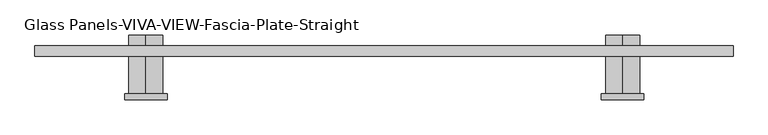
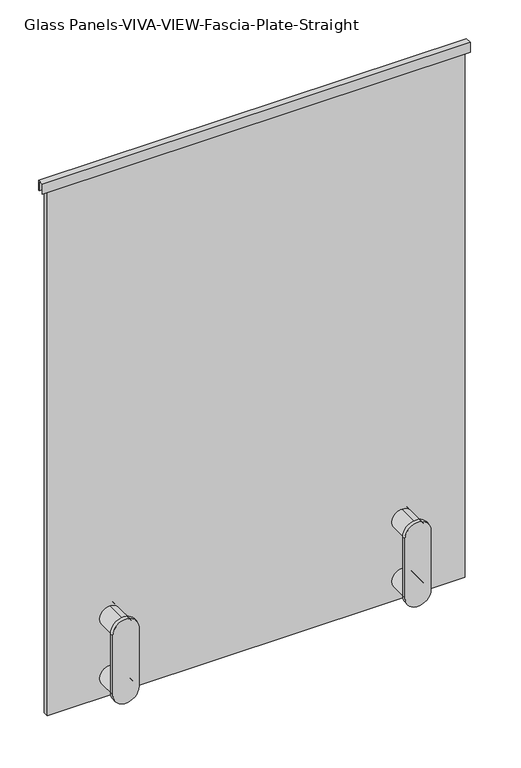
"""IFC4 building model written with IfcOpenShell, lengths in millimetres: railing geometry, Glass Panels-VIVA-VIEW-Fascia-Plate-Straight."""

from ifc_helpers import new_model, si_unit, point, frame, frame_2d, origin, place, context, project, spatial, polyline, circle_curve, trimmed, segment, composite_curve, outline, extrude, source, transform, mapped, element, save
from ifc_brep_helpers import plane_surface, cylinder_surface, advanced_brep


def glass_panels_viva_view_fascia_plate_straight_fb124eda(model_context):
    return source(origin(), model_context, "Body", "SolidModel", [
        extrude(outline(polyline([(-10291.1594585, 4140.2), (-10275.2844585, 4140.2), (-10275.2844585, 4114.8), (-10276.8719585, 4114.8), (-10276.8719585, 4138.6125), (-10289.5719585, 4138.6125), (-10289.5719585, 4114.8), (-10291.1594585, 4114.8), (-10291.1594585, 4140.2)])), frame((19925.5266433, 0.0, 0.0), z_axis=(1.0, 0.0, 0.0), x_axis=(0.0, 1.0, 0.0)), (0.0, 0.0, 1.0), 1041.4),
        advanced_brep(
        [(20091.0096899, -10259.4097524, 2794.0), (20091.0096899, -10259.4097524, 2819.4), (20091.0096899, -10259.4097524, 2844.8), (20091.0096899, -10276.8722524, 2794.0), (20091.0096899, -10276.8722524, 2844.8), (20091.0096899, -10276.8722524, 2813.685), (20091.0096899, -10276.8722524, 2825.115), (20091.0096899, -10289.5722524, 2813.685), (20091.0096899, -10289.5722524, 2825.115), (20091.0096899, -10289.5722524, 2794.0), (20091.0096899, -10289.5722524, 2844.8), (20091.0096899, -10346.7221054, 2794.0), (20091.0096899, -10346.7221054, 2844.8), (20091.0096899, -10346.7221054, 2819.4)],
        [
            (0, 1),
            (1, 2),
            (2, 0, circle_curve(frame((20091.0096899, -10259.4097524, 2819.4), z_axis=(0.0, 1.0, 0.0), x_axis=(0.0, 0.0, 1.0)), 25.4)),
            (0, 2, circle_curve(frame((20091.0096899, -10259.4097524, 2819.4), z_axis=(0.0, 1.0, 0.0), x_axis=(0.0, 0.0, 1.0)), 25.4)),
            (3, 0),
            (2, 4),
            (4, 3, circle_curve(frame((20091.0096899, -10276.8722524, 2819.4), z_axis=(0.0, 1.0, 0.0), x_axis=(0.0, 0.0, 1.0)), 25.4)),
            (3, 4, circle_curve(frame((20091.0096899, -10276.8722524, 2819.4), z_axis=(0.0, 1.0, 0.0), x_axis=(0.0, 0.0, 1.0)), 25.4)),
            (5, 3),
            (4, 6),
            (6, 5, circle_curve(frame((20091.0096899, -10276.8722524, 2819.4), z_axis=(0.0, 1.0, 0.0), x_axis=(0.0, 0.0, 1.0)), 5.715)),
            (5, 6, circle_curve(frame((20091.0096899, -10276.8722524, 2819.4), z_axis=(0.0, 1.0, 0.0), x_axis=(0.0, 0.0, 1.0)), 5.715)),
            (7, 5),
            (6, 8),
            (8, 7, circle_curve(frame((20091.0096899, -10289.5722524, 2819.4), z_axis=(0.0, 1.0, 0.0), x_axis=(0.0, 0.0, 1.0)), 5.715)),
            (7, 8, circle_curve(frame((20091.0096899, -10289.5722524, 2819.4), z_axis=(0.0, 1.0, 0.0), x_axis=(0.0, 0.0, 1.0)), 5.715)),
            (9, 7),
            (8, 10),
            (10, 9, circle_curve(frame((20091.0096899, -10289.5722524, 2819.4), z_axis=(0.0, 1.0, 0.0), x_axis=(0.0, 0.0, 1.0)), 25.4)),
            (9, 10, circle_curve(frame((20091.0096899, -10289.5722524, 2819.4), z_axis=(0.0, 1.0, 0.0), x_axis=(0.0, 0.0, 1.0)), 25.4)),
            (11, 9),
            (10, 12),
            (12, 11, circle_curve(frame((20091.0096899, -10346.7221054, 2819.4), z_axis=(0.0, 1.0, 0.0), x_axis=(0.0, 0.0, 1.0)), 25.4)),
            (11, 12, circle_curve(frame((20091.0096899, -10346.7221054, 2819.4), z_axis=(0.0, 1.0, 0.0), x_axis=(0.0, 0.0, 1.0)), 25.4)),
            (13, 11),
            (12, 13),
        ],
        [
            plane_surface(frame((20091.0096899, -10259.4097524, 2819.4), z_axis=(0.0, 1.0, 0.0), x_axis=(0.0, 0.0, 1.0))),
            cylinder_surface(frame((20091.0096899, -10191.1471054, 2819.4), z_axis=(0.0, -1.0, 0.0), x_axis=(0.0, 0.0, 1.0)), 25.4),
            plane_surface(frame((20091.0096899, -10276.8722524, 2819.4), z_axis=(0.0, -1.0, 0.0), x_axis=(0.0, 0.0, 1.0))),
            cylinder_surface(frame((20091.0096899, -10191.1471054, 2819.4), z_axis=(0.0, -1.0, 0.0), x_axis=(0.0, 0.0, 1.0)), 5.715),
            plane_surface(frame((20091.0096899, -10289.5722524, 2819.4), z_axis=(0.0, 1.0, 0.0), x_axis=(0.0, 0.0, 1.0))),
            plane_surface(frame((20091.0096899, -10346.7221054, 2819.4), z_axis=(0.0, -1.0, 0.0), x_axis=(0.0, 0.0, 1.0))),
        ],
        [
            (0, [[1, 2, 3]]),
            (0, [[-2, -1, 4]]),
            (1, [[5, -3, 6, 7]]),
            (1, [[-6, -4, -5, 8]]),
            (2, [[9, -7, 10, 11]]),
            (2, [[-10, -8, -9, 12]]),
            (3, [[13, -11, 14, 15]]),
            (3, [[-14, -12, -13, 16]]),
            (4, [[17, -15, 18, 19]]),
            (4, [[-18, -16, -17, 20]]),
            (1, [[21, -19, 22, 23]]),
            (1, [[-22, -20, -21, 24]]),
            (5, [[25, -23, 26]]),
            (5, [[-26, -24, -25]]),
        ],
    ),
        advanced_brep(
        [(20091.0096899, -10276.8722524, 2966.085), (20091.0096899, -10276.8722524, 2946.4), (20091.0096899, -10276.8722524, 2997.2), (20091.0096899, -10276.8722524, 2977.515), (20091.0096899, -10289.5722524, 2966.085), (20091.0096899, -10289.5722524, 2977.515), (20091.0096899, -10289.5722524, 2946.4), (20091.0096899, -10289.5722524, 2997.2), (20091.0096899, -10346.7221054, 2946.4), (20091.0096899, -10346.7221054, 2997.2), (20091.0096899, -10346.7221054, 2971.8), (20091.0096899, -10259.4097524, 2946.4), (20091.0096899, -10259.4097524, 2971.8), (20091.0096899, -10259.4097524, 2997.2)],
        [
            (0, 1),
            (1, 2, circle_curve(frame((20091.0096899, -10276.8722524, 2971.8), z_axis=(0.0, -1.0, 0.0), x_axis=(0.0, 0.0, 1.0)), 25.4)),
            (2, 3),
            (3, 0, circle_curve(frame((20091.0096899, -10276.8722524, 2971.8), z_axis=(0.0, 1.0, 0.0), x_axis=(0.0, 0.0, 1.0)), 5.715)),
            (2, 1, circle_curve(frame((20091.0096899, -10276.8722524, 2971.8), z_axis=(0.0, -1.0, 0.0), x_axis=(0.0, 0.0, 1.0)), 25.4)),
            (0, 3, circle_curve(frame((20091.0096899, -10276.8722524, 2971.8), z_axis=(0.0, 1.0, 0.0), x_axis=(0.0, 0.0, 1.0)), 5.715)),
            (4, 0),
            (3, 5),
            (5, 4, circle_curve(frame((20091.0096899, -10289.5722524, 2971.8), z_axis=(0.0, 1.0, 0.0), x_axis=(0.0, 0.0, 1.0)), 5.715)),
            (4, 5, circle_curve(frame((20091.0096899, -10289.5722524, 2971.8), z_axis=(0.0, 1.0, 0.0), x_axis=(0.0, 0.0, 1.0)), 5.715)),
            (6, 4),
            (5, 7),
            (7, 6, circle_curve(frame((20091.0096899, -10289.5722524, 2971.8), z_axis=(0.0, 1.0, 0.0), x_axis=(0.0, 0.0, 1.0)), 25.4)),
            (6, 7, circle_curve(frame((20091.0096899, -10289.5722524, 2971.8), z_axis=(0.0, 1.0, 0.0), x_axis=(0.0, 0.0, 1.0)), 25.4)),
            (8, 6),
            (7, 9),
            (9, 8, circle_curve(frame((20091.0096899, -10346.7221054, 2971.8), z_axis=(0.0, 1.0, 0.0), x_axis=(0.0, 0.0, 1.0)), 25.4)),
            (8, 9, circle_curve(frame((20091.0096899, -10346.7221054, 2971.8), z_axis=(0.0, 1.0, 0.0), x_axis=(0.0, 0.0, 1.0)), 25.4)),
            (10, 8),
            (9, 10),
            (11, 12),
            (12, 13),
            (13, 11, circle_curve(frame((20091.0096899, -10259.4097524, 2971.8), z_axis=(0.0, 1.0, 0.0), x_axis=(0.0, 0.0, 1.0)), 25.4)),
            (11, 13, circle_curve(frame((20091.0096899, -10259.4097524, 2971.8), z_axis=(0.0, 1.0, 0.0), x_axis=(0.0, 0.0, 1.0)), 25.4)),
            (1, 11),
            (13, 2),
        ],
        [
            plane_surface(frame((20091.0096899, -10276.8722524, 2971.8), z_axis=(0.0, -1.0, 0.0), x_axis=(0.0, 0.0, 1.0))),
            cylinder_surface(frame((20091.0096899, -10191.1471054, 2971.8), z_axis=(0.0, -1.0, 0.0), x_axis=(0.0, 0.0, 1.0)), 5.715),
            plane_surface(frame((20091.0096899, -10289.5722524, 2971.8), z_axis=(0.0, 1.0, 0.0), x_axis=(0.0, 0.0, 1.0))),
            cylinder_surface(frame((20091.0096899, -10191.1471054, 2971.8), z_axis=(0.0, -1.0, 0.0), x_axis=(0.0, 0.0, 1.0)), 25.4),
            plane_surface(frame((20091.0096899, -10346.7221054, 2971.8), z_axis=(0.0, -1.0, 0.0), x_axis=(0.0, 0.0, 1.0))),
            plane_surface(frame((20091.0096899, -10259.4097524, 2971.8), z_axis=(0.0, 1.0, 0.0), x_axis=(0.0, 0.0, 1.0))),
        ],
        [
            (0, [[1, 2, 3, 4]]),
            (0, [[-3, 5, -1, 6]]),
            (1, [[7, -4, 8, 9]]),
            (1, [[-8, -6, -7, 10]]),
            (2, [[11, -9, 12, 13]]),
            (2, [[-12, -10, -11, 14]]),
            (3, [[15, -13, 16, 17]]),
            (3, [[-16, -14, -15, 18]]),
            (4, [[19, -17, 20]]),
            (4, [[-20, -18, -19]]),
            (5, [[21, 22, 23]]),
            (5, [[-22, -21, 24]]),
            (3, [[25, -23, 26, -2]]),
            (3, [[-26, -24, -25, -5]]),
        ],
    ),
        extrude(outline(composite_curve([segment(polyline([(2971.8, 20059.2596899), (2819.4, 20059.2596899)]), True, "CONTINUOUS"), segment(trimmed(circle_curve(frame_2d((2819.4, 20091.0096899)), 31.75), [point((2819.4, 20059.2596899))], [point((2819.4, 20122.7596899))], False, "CARTESIAN"), True, "CONTINUOUS"), segment(polyline([(2819.4, 20122.7596899), (2971.8, 20122.7596899)]), True, "CONTINUOUS"), segment(trimmed(circle_curve(frame_2d((2971.8, 20091.0096899)), 31.75), [point((2971.8, 20122.7596899))], [point((2971.8, 20059.2596899))], False, "CARTESIAN"), True, "CONTINUOUS")], self_intersect=False)), frame((0.0, -10356.2471054, 0.0), z_axis=(0.0, 1.0, 0.0), x_axis=(0.0, 0.0, 1.0)), (0.0, 0.0, 1.0), 9.525),
        advanced_brep(
        [(20802.2096899, -10259.4097524, 2794.0), (20802.2096899, -10259.4097524, 2819.4), (20802.2096899, -10259.4097524, 2844.8), (20802.2096899, -10276.8722524, 2794.0), (20802.2096899, -10276.8722524, 2844.8), (20802.2096899, -10276.8722524, 2813.685), (20802.2096899, -10276.8722524, 2825.115), (20802.2096899, -10289.5722524, 2813.685), (20802.2096899, -10289.5722524, 2825.115), (20802.2096899, -10289.5722524, 2794.0), (20802.2096899, -10289.5722524, 2844.8), (20802.2096899, -10346.7221054, 2794.0), (20802.2096899, -10346.7221054, 2844.8), (20802.2096899, -10346.7221054, 2819.4)],
        [
            (0, 1),
            (1, 2),
            (2, 0, circle_curve(frame((20802.2096899, -10259.4097524, 2819.4), z_axis=(0.0, 1.0, 0.0), x_axis=(0.0, 0.0, 1.0)), 25.4)),
            (0, 2, circle_curve(frame((20802.2096899, -10259.4097524, 2819.4), z_axis=(0.0, 1.0, 0.0), x_axis=(0.0, 0.0, 1.0)), 25.4)),
            (3, 0),
            (2, 4),
            (4, 3, circle_curve(frame((20802.2096899, -10276.8722524, 2819.4), z_axis=(0.0, 1.0, 0.0), x_axis=(0.0, 0.0, 1.0)), 25.4)),
            (3, 4, circle_curve(frame((20802.2096899, -10276.8722524, 2819.4), z_axis=(0.0, 1.0, 0.0), x_axis=(0.0, 0.0, 1.0)), 25.4)),
            (5, 3),
            (4, 6),
            (6, 5, circle_curve(frame((20802.2096899, -10276.8722524, 2819.4), z_axis=(0.0, 1.0, 0.0), x_axis=(0.0, 0.0, 1.0)), 5.715)),
            (5, 6, circle_curve(frame((20802.2096899, -10276.8722524, 2819.4), z_axis=(0.0, 1.0, 0.0), x_axis=(0.0, 0.0, 1.0)), 5.715)),
            (7, 5),
            (6, 8),
            (8, 7, circle_curve(frame((20802.2096899, -10289.5722524, 2819.4), z_axis=(0.0, 1.0, 0.0), x_axis=(0.0, 0.0, 1.0)), 5.715)),
            (7, 8, circle_curve(frame((20802.2096899, -10289.5722524, 2819.4), z_axis=(0.0, 1.0, 0.0), x_axis=(0.0, 0.0, 1.0)), 5.715)),
            (9, 7),
            (8, 10),
            (10, 9, circle_curve(frame((20802.2096899, -10289.5722524, 2819.4), z_axis=(0.0, 1.0, 0.0), x_axis=(0.0, 0.0, 1.0)), 25.4)),
            (9, 10, circle_curve(frame((20802.2096899, -10289.5722524, 2819.4), z_axis=(0.0, 1.0, 0.0), x_axis=(0.0, 0.0, 1.0)), 25.4)),
            (11, 9),
            (10, 12),
            (12, 11, circle_curve(frame((20802.2096899, -10346.7221054, 2819.4), z_axis=(0.0, 1.0, 0.0), x_axis=(0.0, 0.0, 1.0)), 25.4)),
            (11, 12, circle_curve(frame((20802.2096899, -10346.7221054, 2819.4), z_axis=(0.0, 1.0, 0.0), x_axis=(0.0, 0.0, 1.0)), 25.4)),
            (13, 11),
            (12, 13),
        ],
        [
            plane_surface(frame((20802.2096899, -10259.4097524, 2819.4), z_axis=(0.0, 1.0, 0.0), x_axis=(0.0, 0.0, 1.0))),
            cylinder_surface(frame((20802.2096899, -10191.1471054, 2819.4), z_axis=(0.0, -1.0, 0.0), x_axis=(0.0, 0.0, 1.0)), 25.4),
            plane_surface(frame((20802.2096899, -10276.8722524, 2819.4), z_axis=(0.0, -1.0, 0.0), x_axis=(0.0, 0.0, 1.0))),
            cylinder_surface(frame((20802.2096899, -10191.1471054, 2819.4), z_axis=(0.0, -1.0, 0.0), x_axis=(0.0, 0.0, 1.0)), 5.715),
            plane_surface(frame((20802.2096899, -10289.5722524, 2819.4), z_axis=(0.0, 1.0, 0.0), x_axis=(0.0, 0.0, 1.0))),
            plane_surface(frame((20802.2096899, -10346.7221054, 2819.4), z_axis=(0.0, -1.0, 0.0), x_axis=(0.0, 0.0, 1.0))),
        ],
        [
            (0, [[1, 2, 3]]),
            (0, [[-2, -1, 4]]),
            (1, [[5, -3, 6, 7]]),
            (1, [[-6, -4, -5, 8]]),
            (2, [[9, -7, 10, 11]]),
            (2, [[-10, -8, -9, 12]]),
            (3, [[13, -11, 14, 15]]),
            (3, [[-14, -12, -13, 16]]),
            (4, [[17, -15, 18, 19]]),
            (4, [[-18, -16, -17, 20]]),
            (1, [[21, -19, 22, 23]]),
            (1, [[-22, -20, -21, 24]]),
            (5, [[25, -23, 26]]),
            (5, [[-26, -24, -25]]),
        ],
    ),
        advanced_brep(
        [(20802.2096899, -10276.8722524, 2966.085), (20802.2096899, -10276.8722524, 2946.4), (20802.2096899, -10276.8722524, 2997.2), (20802.2096899, -10276.8722524, 2977.515), (20802.2096899, -10289.5722524, 2966.085), (20802.2096899, -10289.5722524, 2977.515), (20802.2096899, -10289.5722524, 2946.4), (20802.2096899, -10289.5722524, 2997.2), (20802.2096899, -10346.7221054, 2946.4), (20802.2096899, -10346.7221054, 2997.2), (20802.2096899, -10346.7221054, 2971.8), (20802.2096899, -10259.4097524, 2946.4), (20802.2096899, -10259.4097524, 2971.8), (20802.2096899, -10259.4097524, 2997.2)],
        [
            (0, 1),
            (1, 2, circle_curve(frame((20802.2096899, -10276.8722524, 2971.8), z_axis=(0.0, -1.0, 0.0), x_axis=(0.0, 0.0, 1.0)), 25.4)),
            (2, 3),
            (3, 0, circle_curve(frame((20802.2096899, -10276.8722524, 2971.8), z_axis=(0.0, 1.0, 0.0), x_axis=(0.0, 0.0, 1.0)), 5.715)),
            (2, 1, circle_curve(frame((20802.2096899, -10276.8722524, 2971.8), z_axis=(0.0, -1.0, 0.0), x_axis=(0.0, 0.0, 1.0)), 25.4)),
            (0, 3, circle_curve(frame((20802.2096899, -10276.8722524, 2971.8), z_axis=(0.0, 1.0, 0.0), x_axis=(0.0, 0.0, 1.0)), 5.715)),
            (4, 0),
            (3, 5),
            (5, 4, circle_curve(frame((20802.2096899, -10289.5722524, 2971.8), z_axis=(0.0, 1.0, 0.0), x_axis=(0.0, 0.0, 1.0)), 5.715)),
            (4, 5, circle_curve(frame((20802.2096899, -10289.5722524, 2971.8), z_axis=(0.0, 1.0, 0.0), x_axis=(0.0, 0.0, 1.0)), 5.715)),
            (6, 4),
            (5, 7),
            (7, 6, circle_curve(frame((20802.2096899, -10289.5722524, 2971.8), z_axis=(0.0, 1.0, 0.0), x_axis=(0.0, 0.0, 1.0)), 25.4)),
            (6, 7, circle_curve(frame((20802.2096899, -10289.5722524, 2971.8), z_axis=(0.0, 1.0, 0.0), x_axis=(0.0, 0.0, 1.0)), 25.4)),
            (8, 6),
            (7, 9),
            (9, 8, circle_curve(frame((20802.2096899, -10346.7221054, 2971.8), z_axis=(0.0, 1.0, 0.0), x_axis=(0.0, 0.0, 1.0)), 25.4)),
            (8, 9, circle_curve(frame((20802.2096899, -10346.7221054, 2971.8), z_axis=(0.0, 1.0, 0.0), x_axis=(0.0, 0.0, 1.0)), 25.4)),
            (10, 8),
            (9, 10),
            (11, 12),
            (12, 13),
            (13, 11, circle_curve(frame((20802.2096899, -10259.4097524, 2971.8), z_axis=(0.0, 1.0, 0.0), x_axis=(0.0, 0.0, 1.0)), 25.4)),
            (11, 13, circle_curve(frame((20802.2096899, -10259.4097524, 2971.8), z_axis=(0.0, 1.0, 0.0), x_axis=(0.0, 0.0, 1.0)), 25.4)),
            (1, 11),
            (13, 2),
        ],
        [
            plane_surface(frame((20802.2096899, -10276.8722524, 2971.8), z_axis=(0.0, -1.0, 0.0), x_axis=(0.0, 0.0, 1.0))),
            cylinder_surface(frame((20802.2096899, -10191.1471054, 2971.8), z_axis=(0.0, -1.0, 0.0), x_axis=(0.0, 0.0, 1.0)), 5.715),
            plane_surface(frame((20802.2096899, -10289.5722524, 2971.8), z_axis=(0.0, 1.0, 0.0), x_axis=(0.0, 0.0, 1.0))),
            cylinder_surface(frame((20802.2096899, -10191.1471054, 2971.8), z_axis=(0.0, -1.0, 0.0), x_axis=(0.0, 0.0, 1.0)), 25.4),
            plane_surface(frame((20802.2096899, -10346.7221054, 2971.8), z_axis=(0.0, -1.0, 0.0), x_axis=(0.0, 0.0, 1.0))),
            plane_surface(frame((20802.2096899, -10259.4097524, 2971.8), z_axis=(0.0, 1.0, 0.0), x_axis=(0.0, 0.0, 1.0))),
        ],
        [
            (0, [[1, 2, 3, 4]]),
            (0, [[-3, 5, -1, 6]]),
            (1, [[7, -4, 8, 9]]),
            (1, [[-8, -6, -7, 10]]),
            (2, [[11, -9, 12, 13]]),
            (2, [[-12, -10, -11, 14]]),
            (3, [[15, -13, 16, 17]]),
            (3, [[-16, -14, -15, 18]]),
            (4, [[19, -17, 20]]),
            (4, [[-20, -18, -19]]),
            (5, [[21, 22, 23]]),
            (5, [[-22, -21, 24]]),
            (3, [[25, -23, 26, -2]]),
            (3, [[-26, -24, -25, -5]]),
        ],
    ),
        extrude(outline(composite_curve([segment(polyline([(2971.8, 20770.4596899), (2819.4, 20770.4596899)]), True, "CONTINUOUS"), segment(trimmed(circle_curve(frame_2d((2819.4, 20802.2096899)), 31.75), [point((2819.4, 20770.4596899))], [point((2819.4, 20833.9596899))], False, "CARTESIAN"), True, "CONTINUOUS"), segment(polyline([(2819.4, 20833.9596899), (2971.8, 20833.9596899)]), True, "CONTINUOUS"), segment(trimmed(circle_curve(frame_2d((2971.8, 20802.2096899)), 31.75), [point((2971.8, 20833.9596899))], [point((2971.8, 20770.4596899))], False, "CARTESIAN"), True, "CONTINUOUS")], self_intersect=False)), frame((0.0, -10356.2471054, 0.0), z_axis=(0.0, 1.0, 0.0), x_axis=(0.0, 0.0, 1.0)), (0.0, 0.0, 1.0), 9.525),
        extrude(outline(polyline([(19938.6096899, -10289.5719585), (19938.6096899, -10276.8719585), (20954.6096899, -10276.8719585), (20954.6096899, -10289.5719585), (19938.6096899, -10289.5719585)])), frame((0.0, 0.0, 2768.6), z_axis=(0.0, 0.0, 1.0), x_axis=(1.0, 0.0, 0.0)), (0.0, 0.0, 1.0), 1370.0125),
    ])


if __name__ == "__main__":
    model = new_model("IFC4")
    model_context = context("Model", 3, world=origin())
    ifc_project = project(units=[si_unit("LENGTHUNIT", "METRE", prefix="MILLI")], contexts=[model_context])
    site = spatial("IfcSite", under=ifc_project)
    building = spatial("IfcBuilding", under=site)
    placement = place(None, origin())
    glass_panels_viva_view_fascia_plate_straight_shape = glass_panels_viva_view_fascia_plate_straight_fb124eda(model_context)
    element("IfcRailing", 1, ObjectType="Glass Panels-VIVA-VIEW-Fascia-Plate-Straight", at=placement, inside=building, context=model_context, shape_type="MappedRepresentation", body=[
        mapped(glass_panels_viva_view_fascia_plate_straight_shape, transform((0.0, 0.0, 0.0), x_axis=(1.0, 0.0, 0.0), y_axis=(0.0, 1.0, 0.0), z_axis=(0.0, 0.0, 1.0))),
    ])
    save(model, "model.ifc")
